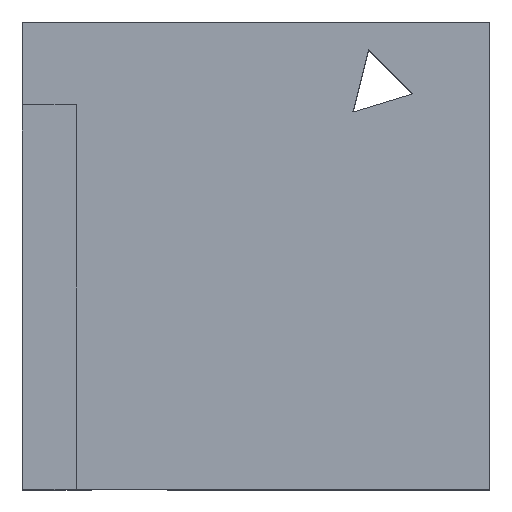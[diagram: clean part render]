
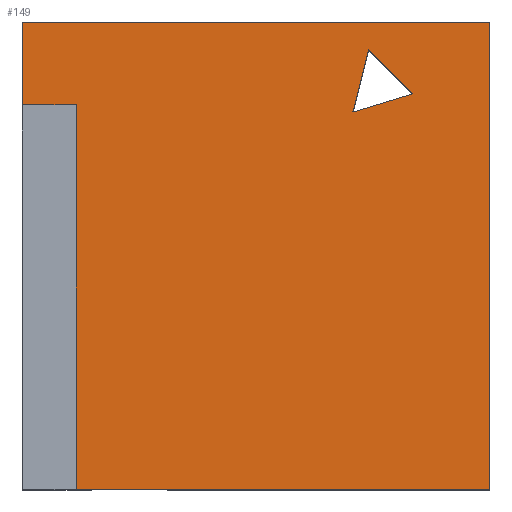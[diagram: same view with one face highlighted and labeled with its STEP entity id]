
A CAD part, top view. The second image highlights one B-rep face of the part: STEP entity #149.
In plain terms, the highlighted planar face has unit normal (0, 0, 1).
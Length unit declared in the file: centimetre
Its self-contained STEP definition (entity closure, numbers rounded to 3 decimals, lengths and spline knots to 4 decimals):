
#6 = VERTEX_POINT ( 'NONE', #339 ) ;
#41 = CARTESIAN_POINT ( 'NONE',  ( 0., 0., 1000. ) ) ;
#62 = LINE ( 'NONE', #1577, #554 ) ;
#86 = ORIENTED_EDGE ( 'NONE', *, *, #177, .T. ) ;
#97 = VERTEX_POINT ( 'NONE', #604 ) ;
#149 = ADVANCED_FACE ( 'NONE', ( #1604, #954 ), #674, .T. ) ;
#177 = EDGE_CURVE ( 'NONE', #1942, #6, #535, .T. ) ;
#192 = DIRECTION ( 'NONE',  ( 0.244, 0.97, 0. ) ) ;
#232 = DIRECTION ( 'NONE',  ( 0., 0., 1. ) ) ;
#243 = DIRECTION ( 'NONE',  ( 0., 1., 0. ) ) ;
#255 = CARTESIAN_POINT ( 'NONE',  ( 0., 1000., 1000. ) ) ;
#282 = CARTESIAN_POINT ( 'NONE',  ( 0., 822.6961, 1000. ) ) ;
#339 = CARTESIAN_POINT ( 'NONE',  ( 741.1537, 940.6726, 1000. ) ) ;
#349 = ORIENTED_EDGE ( 'NONE', *, *, #480, .F. ) ;
#357 = ORIENTED_EDGE ( 'NONE', *, *, #1689, .T. ) ;
#392 = DIRECTION ( 'NONE',  ( 1., 0., 0. ) ) ;
#399 = EDGE_LOOP ( 'NONE', ( #357, #86, #1143 ) ) ;
#431 = CARTESIAN_POINT ( 'NONE',  ( 0., 822.6961, 1000. ) ) ;
#436 = LINE ( 'NONE', #282, #1325 ) ;
#480 = EDGE_CURVE ( 'NONE', #97, #1119, #436, .T. ) ;
#498 = CARTESIAN_POINT ( 'NONE',  ( 835.7596, 846.0667, 1000. ) ) ;
#513 = EDGE_LOOP ( 'NONE', ( #1516, #1023, #519, #990, #1785, #349 ) ) ;
#519 = ORIENTED_EDGE ( 'NONE', *, *, #618, .T. ) ;
#535 = LINE ( 'NONE', #1102, #955 ) ;
#554 = VECTOR ( 'NONE', #1111, 100. ) ;
#560 = CARTESIAN_POINT ( 'NONE',  ( 1000., 1000., 1000. ) ) ;
#604 = CARTESIAN_POINT ( 'NONE',  ( 115.5734, 822.6961, 1000. ) ) ;
#608 = LINE ( 'NONE', #1389, #1028 ) ;
#618 = EDGE_CURVE ( 'NONE', #639, #1445, #1297, .T. ) ;
#639 = VERTEX_POINT ( 'NONE', #1774 ) ;
#673 = VECTOR ( 'NONE', #1784, 100. ) ;
#674 = PLANE ( 'NONE',  #1404 ) ;
#778 = DIRECTION ( 'NONE',  ( 0., -1., 0. ) ) ;
#796 = CARTESIAN_POINT ( 'NONE',  ( 115.5734, 0., 1000. ) ) ;
#839 = CARTESIAN_POINT ( 'NONE',  ( 0., 0., 1000. ) ) ;
#878 = CARTESIAN_POINT ( 'NONE',  ( 1000., 1000., 1000. ) ) ;
#902 = EDGE_CURVE ( 'NONE', #1365, #639, #1271, .T. ) ;
#909 = CARTESIAN_POINT ( 'NONE',  ( 0., 1000., 1000. ) ) ;
#954 = FACE_OUTER_BOUND ( 'NONE', #513, .T. ) ;
#955 = VECTOR ( 'NONE', #192, 100. ) ;
#967 = VECTOR ( 'NONE', #243, 100. ) ;
#990 = ORIENTED_EDGE ( 'NONE', *, *, #1446, .T. ) ;
#1020 = DIRECTION ( 'NONE',  ( 0.707, -0.707, 0. ) ) ;
#1023 = ORIENTED_EDGE ( 'NONE', *, *, #902, .T. ) ;
#1028 = VECTOR ( 'NONE', #778, 100. ) ;
#1030 = VECTOR ( 'NONE', #1351, 100. ) ;
#1102 = CARTESIAN_POINT ( 'NONE',  ( 741.1537, 940.6726, 1000. ) ) ;
#1111 = DIRECTION ( 'NONE',  ( -0.957, -0.289, 0. ) ) ;
#1119 = VERTEX_POINT ( 'NONE', #431 ) ;
#1127 = VERTEX_POINT ( 'NONE', #1333 ) ;
#1143 = ORIENTED_EDGE ( 'NONE', *, *, #1443, .T. ) ;
#1149 = VECTOR ( 'NONE', #1020, 100. ) ;
#1205 = LINE ( 'NONE', #909, #1030 ) ;
#1271 = LINE ( 'NONE', #41, #1285 ) ;
#1285 = VECTOR ( 'NONE', #392, 100. ) ;
#1286 = DIRECTION ( 'NONE',  ( 1., 0., 0. ) ) ;
#1297 = LINE ( 'NONE', #560, #967 ) ;
#1325 = VECTOR ( 'NONE', #1646, 100. ) ;
#1330 = LINE ( 'NONE', #255, #673 ) ;
#1333 = CARTESIAN_POINT ( 'NONE',  ( 0., 1000., 1000. ) ) ;
#1351 = DIRECTION ( 'NONE',  ( 0., -1., 0. ) ) ;
#1365 = VERTEX_POINT ( 'NONE', #796 ) ;
#1389 = CARTESIAN_POINT ( 'NONE',  ( 115.5734, 822.6961, 1000. ) ) ;
#1404 = AXIS2_PLACEMENT_3D ( 'NONE', #839, #232, #1286 ) ;
#1443 = EDGE_CURVE ( 'NONE', #6, #1718, #1947, .T. ) ;
#1445 = VERTEX_POINT ( 'NONE', #878 ) ;
#1446 = EDGE_CURVE ( 'NONE', #1445, #1127, #1330, .T. ) ;
#1516 = ORIENTED_EDGE ( 'NONE', *, *, #1620, .T. ) ;
#1577 = CARTESIAN_POINT ( 'NONE',  ( 707.6183, 807.3604, 1000. ) ) ;
#1604 = FACE_BOUND ( 'NONE', #399, .T. ) ;
#1620 = EDGE_CURVE ( 'NONE', #97, #1365, #608, .T. ) ;
#1639 = CARTESIAN_POINT ( 'NONE',  ( 835.7596, 846.0667, 1000. ) ) ;
#1646 = DIRECTION ( 'NONE',  ( -1., 0., 0. ) ) ;
#1689 = EDGE_CURVE ( 'NONE', #1718, #1942, #62, .T. ) ;
#1718 = VERTEX_POINT ( 'NONE', #498 ) ;
#1774 = CARTESIAN_POINT ( 'NONE',  ( 1000., 0., 1000. ) ) ;
#1784 = DIRECTION ( 'NONE',  ( -1., 0., 0. ) ) ;
#1785 = ORIENTED_EDGE ( 'NONE', *, *, #1984, .T. ) ;
#1794 = CARTESIAN_POINT ( 'NONE',  ( 707.6183, 807.3604, 1000. ) ) ;
#1942 = VERTEX_POINT ( 'NONE', #1794 ) ;
#1947 = LINE ( 'NONE', #1639, #1149 ) ;
#1984 = EDGE_CURVE ( 'NONE', #1127, #1119, #1205, .T. ) ;
